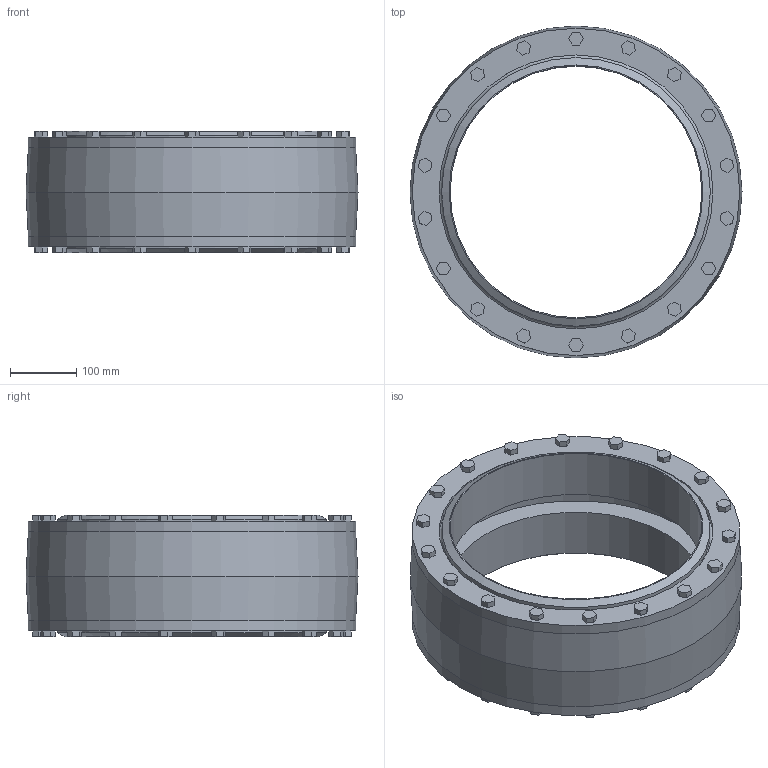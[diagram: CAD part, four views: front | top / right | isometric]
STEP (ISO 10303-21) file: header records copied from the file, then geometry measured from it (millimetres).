
FILE_DESCRIPTION(/* description */ ('VIC EXPANSION JOINT COUPLING 152-A','CAx-IF Rec.Pracs.---Representation and Presentation of Product Manufacturing Information (PMI)---4.0---2014-10-13'),/* implementation_level */ '2;1');
FILE_NAME(/* name */ 'C:\Users\kkamble\AppData\Roaming\Autodesk\ApplicationPlugins\Back Up\Victaulic_Vic-Ring_Coupling Expansion Joint_Style 152A (OGR)\Victaulic_Vic-Ring_Coupling Expansion Joint_Style 152A (OGR)_16 (400).stp',/* time_stamp */ '2020-09-10T11:33:52+05:00',/* author */ ('jheald'),/* organization */ ('Victaulic'),/* preprocessor_version */ 'ST-DEVELOPER v17.2',/* originating_system */ 'Autodesk Inventor 2019',/* authorisation */ '');
FILE_SCHEMA (('AP242_MANAGED_MODEL_BASED_3D_ENGINEERING_MIM_LF { 1 0 10303 442 1 1 4 }'));
Length unit declared in the file: inch
Products named in the file (1): 152A-16.0
Bounding box: 502.34 x 502.34 x 184.15 mm (x, y, z)
Volume: 11616788.8 mm3; surface area: 1186087.8 mm2
Topology: 1 solids, 1 shells, 289 faces, 747 edges, 508 vertices
Faces by surface type: plane 266, cylinder 15, cone 6, torus 2
Full cylindrical faces by diameter (mm): 381 x2, 406.4 x2, 414.528 x2, 420.878 x2, 441.452 x4, 444.5 x1, 495.3 x2
Entity records: 9180 total; most frequent: CARTESIAN_POINT 1562, ORIENTED_EDGE 1494, DIRECTION 1431, EDGE_CURVE 747, LINE 669, VECTOR 669, VERTEX_POINT 508, AXIS2_PLACEMENT_3D 381
